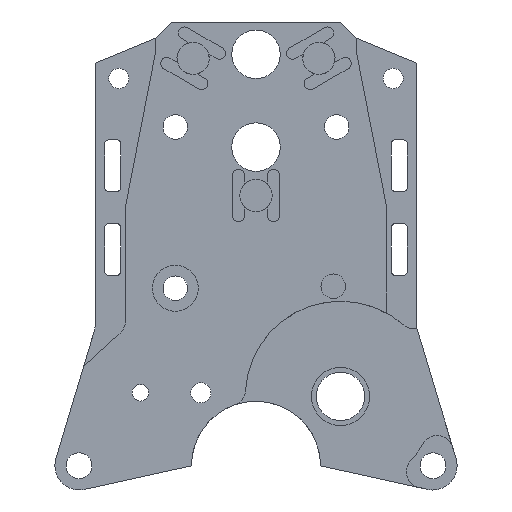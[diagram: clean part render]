
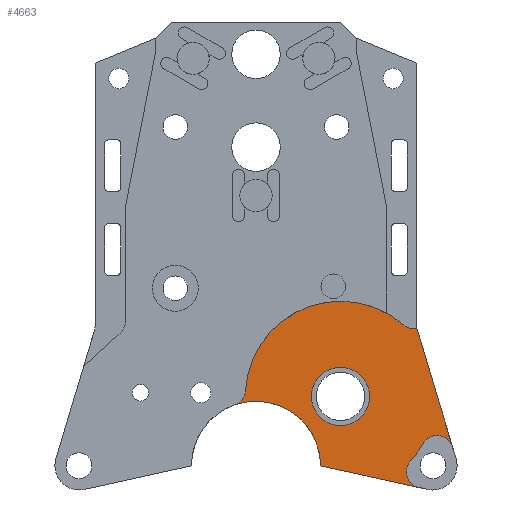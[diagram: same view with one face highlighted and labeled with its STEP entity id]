
A CAD part, front view. The second image highlights one B-rep face of the part: STEP entity #4663.
In plain terms, the highlighted planar face has unit normal (0, -1, 0).
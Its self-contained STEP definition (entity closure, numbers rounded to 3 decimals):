
#81 = AXIS2_PLACEMENT_3D ( 'NONE', #2381, #905, #489 ) ;
#137 = ORIENTED_EDGE ( 'NONE', *, *, #3098, .T. ) ;
#141 = AXIS2_PLACEMENT_3D ( 'NONE', #1624, #4806, #3237 ) ;
#176 = EDGE_CURVE ( 'NONE', #1163, #3303, #936, .T. ) ;
#193 = CARTESIAN_POINT ( 'NONE',  ( 19.581, 3.2, 18.966 ) ) ;
#401 = LINE ( 'NONE', #2405, #1815 ) ;
#409 = CIRCLE ( 'NONE', #3982, 8. ) ;
#452 = DIRECTION ( 'NONE',  ( 0., 0., -1. ) ) ;
#489 = DIRECTION ( 'NONE',  ( 0., 0., -1. ) ) ;
#564 = CIRCLE ( 'NONE', #2485, 2. ) ;
#650 = VERTEX_POINT ( 'NONE', #2262 ) ;
#720 = CARTESIAN_POINT ( 'NONE',  ( 20.202, 3.2, -2.692 ) ) ;
#788 = AXIS2_PLACEMENT_3D ( 'NONE', #2069, #1240, #452 ) ;
#905 = DIRECTION ( 'NONE',  ( 0., -1., 0. ) ) ;
#936 = CIRCLE ( 'NONE', #1525, 2. ) ;
#1017 = VERTEX_POINT ( 'NONE', #720 ) ;
#1040 = ORIENTED_EDGE ( 'NONE', *, *, #176, .T. ) ;
#1054 = VERTEX_POINT ( 'NONE', #2317 ) ;
#1102 = ORIENTED_EDGE ( 'NONE', *, *, #2031, .F. ) ;
#1110 = DIRECTION ( 'NONE',  ( 0., 1., 0. ) ) ;
#1154 = FACE_OUTER_BOUND ( 'NONE', #3768, .T. ) ;
#1163 = VERTEX_POINT ( 'NONE', #4055 ) ;
#1178 = DIRECTION ( 'NONE',  ( 0., 0., -1. ) ) ;
#1211 = AXIS2_PLACEMENT_3D ( 'NONE', #2386, #3270, #2800 ) ;
#1240 = DIRECTION ( 'NONE',  ( 0., 1., 0. ) ) ;
#1270 = DIRECTION ( 'NONE',  ( 0., -1., 0. ) ) ;
#1275 = DIRECTION ( 'NONE',  ( 0.288, 0., -0.958 ) ) ;
#1295 = ORIENTED_EDGE ( 'NONE', *, *, #3682, .T. ) ;
#1308 = VECTOR ( 'NONE', #1275, 1000. ) ;
#1464 = ORIENTED_EDGE ( 'NONE', *, *, #4282, .T. ) ;
#1496 = DIRECTION ( 'NONE',  ( 0., -1., 0. ) ) ;
#1525 = AXIS2_PLACEMENT_3D ( 'NONE', #193, #4930, #1810 ) ;
#1544 = EDGE_CURVE ( 'NONE', #3303, #3268, #3040, .T. ) ;
#1552 = DIRECTION ( 'NONE',  ( 0., 0., -1. ) ) ;
#1572 = CIRCLE ( 'NONE', #4152, 11.8 ) ;
#1584 = EDGE_CURVE ( 'NONE', #4226, #4116, #2121, .T. ) ;
#1624 = CARTESIAN_POINT ( 'NONE',  ( 10.472, 3.2, 8.599 ) ) ;
#1712 = CARTESIAN_POINT ( 'NONE',  ( 10.472, 3.2, 4.999 ) ) ;
#1810 = DIRECTION ( 'NONE',  ( 0., 0., -1. ) ) ;
#1815 = VECTOR ( 'NONE', #3635, 1000. ) ;
#1832 = AXIS2_PLACEMENT_3D ( 'NONE', #4800, #3960, #1178 ) ;
#1897 = VERTEX_POINT ( 'NONE', #2695 ) ;
#1903 = AXIS2_PLACEMENT_3D ( 'NONE', #4218, #1110, #2677 ) ;
#1992 = CARTESIAN_POINT ( 'NONE',  ( 18.261, 3.2, 17.463 ) ) ;
#2012 = ORIENTED_EDGE ( 'NONE', *, *, #4117, .F. ) ;
#2022 = EDGE_CURVE ( 'NONE', #2925, #1017, #401, .T. ) ;
#2023 = DIRECTION ( 'NONE',  ( 0., 1., 0. ) ) ;
#2031 = EDGE_CURVE ( 'NONE', #4116, #4226, #3724, .T. ) ;
#2069 = CARTESIAN_POINT ( 'NONE',  ( 19.581, 3.2, 18.966 ) ) ;
#2121 = CIRCLE ( 'NONE', #1211, 3.6 ) ;
#2157 = AXIS2_PLACEMENT_3D ( 'NONE', #3803, #3751, #2966 ) ;
#2204 = CARTESIAN_POINT ( 'NONE',  ( 8., 3.2, 0. ) ) ;
#2262 = CARTESIAN_POINT ( 'NONE',  ( -1.306, 3.2, 9.317 ) ) ;
#2302 = ORIENTED_EDGE ( 'NONE', *, *, #1584, .F. ) ;
#2317 = CARTESIAN_POINT ( 'NONE',  ( 20.711, 3.2, 2.734 ) ) ;
#2381 = CARTESIAN_POINT ( 'NONE',  ( 10.472, 3.2, 8.599 ) ) ;
#2386 = CARTESIAN_POINT ( 'NONE',  ( 10.472, 3.2, 8.599 ) ) ;
#2405 = CARTESIAN_POINT ( 'NONE',  ( 0.371, 3.2, 1.683 ) ) ;
#2485 = AXIS2_PLACEMENT_3D ( 'NONE', #2833, #2023, #1552 ) ;
#2519 = LINE ( 'NONE', #4112, #1308 ) ;
#2592 = EDGE_CURVE ( 'NONE', #1163, #1897, #2519, .T. ) ;
#2631 = VERTEX_POINT ( 'NONE', #3168 ) ;
#2665 = CIRCLE ( 'NONE', #2157, 11.8 ) ;
#2677 = DIRECTION ( 'NONE',  ( 0., 0., -1. ) ) ;
#2686 = VERTEX_POINT ( 'NONE', #2754 ) ;
#2695 = CARTESIAN_POINT ( 'NONE',  ( 24.362, 3.2, 2.315 ) ) ;
#2740 = CIRCLE ( 'NONE', #1832, 2. ) ;
#2754 = CARTESIAN_POINT ( 'NONE',  ( 19.16, 3.2, 0.614 ) ) ;
#2800 = DIRECTION ( 'NONE',  ( 0., 0., -1. ) ) ;
#2833 = CARTESIAN_POINT ( 'NONE',  ( 22.446, 3.2, 1.74 ) ) ;
#2884 = ORIENTED_EDGE ( 'NONE', *, *, #4421, .T. ) ;
#2886 = PLANE ( 'NONE',  #81 ) ;
#2925 = VERTEX_POINT ( 'NONE', #2204 ) ;
#2966 = DIRECTION ( 'NONE',  ( 0., 0., -1. ) ) ;
#3040 = CIRCLE ( 'NONE', #788, 2. ) ;
#3090 = DIRECTION ( 'NONE',  ( 0., 0., -1. ) ) ;
#3098 = EDGE_CURVE ( 'NONE', #2686, #1054, #1572, .T. ) ;
#3168 = CARTESIAN_POINT ( 'NONE',  ( -2.642, 3.2, 7.551 ) ) ;
#3181 = ORIENTED_EDGE ( 'NONE', *, *, #2022, .T. ) ;
#3209 = ORIENTED_EDGE ( 'NONE', *, *, #2592, .F. ) ;
#3237 = DIRECTION ( 'NONE',  ( 0., 0., -1. ) ) ;
#3268 = VERTEX_POINT ( 'NONE', #1992 ) ;
#3270 = DIRECTION ( 'NONE',  ( 0., -1., 0. ) ) ;
#3303 = VERTEX_POINT ( 'NONE', #4984 ) ;
#3346 = CARTESIAN_POINT ( 'NONE',  ( 0., 3.2, 0. ) ) ;
#3414 = EDGE_LOOP ( 'NONE', ( #1102, #2302 ) ) ;
#3483 = CIRCLE ( 'NONE', #1903, 2. ) ;
#3553 = ORIENTED_EDGE ( 'NONE', *, *, #4875, .T. ) ;
#3635 = DIRECTION ( 'NONE',  ( 0.977, 0., -0.215 ) ) ;
#3682 = EDGE_CURVE ( 'NONE', #1017, #2686, #2740, .T. ) ;
#3701 = ORIENTED_EDGE ( 'NONE', *, *, #1544, .T. ) ;
#3724 = CIRCLE ( 'NONE', #141, 3.6 ) ;
#3751 = DIRECTION ( 'NONE',  ( 0., -1., 0. ) ) ;
#3768 = EDGE_LOOP ( 'NONE', ( #3181, #1295, #137, #2884, #3209, #1040, #3701, #3553, #1464, #2012 ) ) ;
#3803 = CARTESIAN_POINT ( 'NONE',  ( 10.472, 3.2, 8.599 ) ) ;
#3960 = DIRECTION ( 'NONE',  ( 0., 1., 0. ) ) ;
#3982 = AXIS2_PLACEMENT_3D ( 'NONE', #3346, #1270, #4533 ) ;
#4055 = CARTESIAN_POINT ( 'NONE',  ( 19.95, 3.2, 17. ) ) ;
#4112 = CARTESIAN_POINT ( 'NONE',  ( 22.983, 3.2, 6.905 ) ) ;
#4116 = VERTEX_POINT ( 'NONE', #1712 ) ;
#4117 = EDGE_CURVE ( 'NONE', #2925, #2631, #409, .T. ) ;
#4152 = AXIS2_PLACEMENT_3D ( 'NONE', #5067, #1496, #3090 ) ;
#4218 = CARTESIAN_POINT ( 'NONE',  ( -3.303, 3.2, 9.439 ) ) ;
#4226 = VERTEX_POINT ( 'NONE', #5050 ) ;
#4282 = EDGE_CURVE ( 'NONE', #650, #2631, #3483, .T. ) ;
#4421 = EDGE_CURVE ( 'NONE', #1054, #1897, #564, .T. ) ;
#4533 = DIRECTION ( 'NONE',  ( 0., 0., -1. ) ) ;
#4663 = ADVANCED_FACE ( 'NONE', ( #4779, #1154 ), #2886, .T. ) ;
#4779 = FACE_BOUND ( 'NONE', #3414, .T. ) ;
#4800 = CARTESIAN_POINT ( 'NONE',  ( 20.633, 3.2, -0.739 ) ) ;
#4806 = DIRECTION ( 'NONE',  ( 0., -1., 0. ) ) ;
#4875 = EDGE_CURVE ( 'NONE', #3268, #650, #2665, .T. ) ;
#4930 = DIRECTION ( 'NONE',  ( 0., 1., 0. ) ) ;
#4984 = CARTESIAN_POINT ( 'NONE',  ( 19.581, 3.2, 16.966 ) ) ;
#5050 = CARTESIAN_POINT ( 'NONE',  ( 10.472, 3.2, 12.199 ) ) ;
#5067 = CARTESIAN_POINT ( 'NONE',  ( 10.472, 3.2, 8.599 ) ) ;
